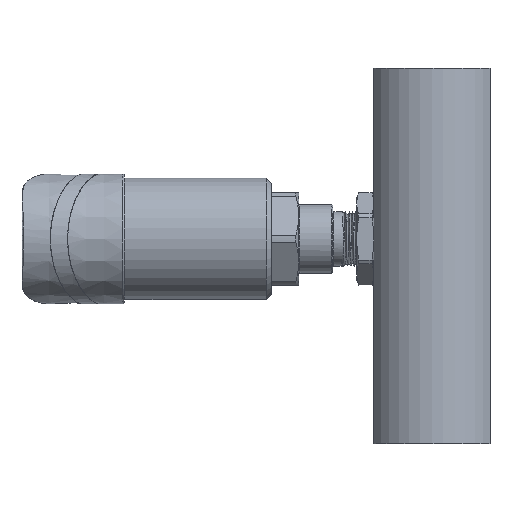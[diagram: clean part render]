
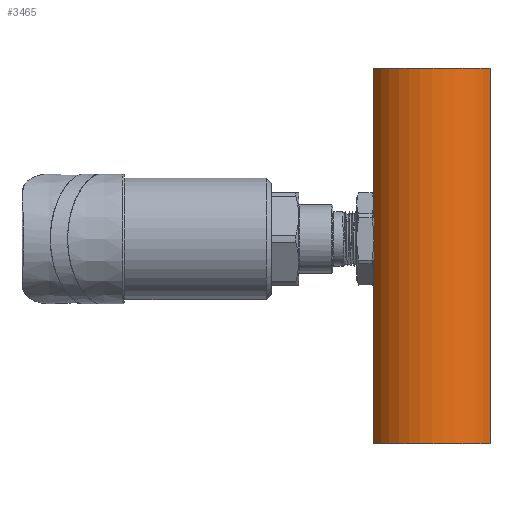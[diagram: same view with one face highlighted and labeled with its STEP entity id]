
A CAD part, left-side view. The second image highlights one B-rep face of the part: STEP entity #3465.
In plain terms, the highlighted cylindrical face has radius 20 mm (diameter 40 mm), a partial arc.
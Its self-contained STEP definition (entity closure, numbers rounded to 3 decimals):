
#2415=CYLINDRICAL_SURFACE('',#15227,20.);
#2764=CIRCLE('',#15225,20.);
#2765=CIRCLE('',#15226,20.);
#3465=ADVANCED_FACE('',(#4387),#2415,.T.);
#4387=FACE_OUTER_BOUND('',#5211,.T.);
#5211=EDGE_LOOP('',(#9407,#9408,#9409,#9410));
#9407=ORIENTED_EDGE('',*,*,#12492,.F.);
#9408=ORIENTED_EDGE('',*,*,#12493,.T.);
#9409=ORIENTED_EDGE('',*,*,#12494,.F.);
#9410=ORIENTED_EDGE('',*,*,#12495,.T.);
#10719=VERTEX_POINT('',#31497);
#10720=VERTEX_POINT('',#31498);
#10721=VERTEX_POINT('',#31500);
#10722=VERTEX_POINT('',#31502);
#12492=EDGE_CURVE('',#10719,#10720,#13383,.T.);
#12493=EDGE_CURVE('',#10719,#10721,#2764,.T.);
#12494=EDGE_CURVE('',#10722,#10721,#13384,.T.);
#12495=EDGE_CURVE('',#10722,#10720,#2765,.T.);
#13383=LINE('',#31496,#14344);
#13384=LINE('',#31501,#14345);
#14344=VECTOR('',#17943,1.);
#14345=VECTOR('',#17946,1.);
#15225=AXIS2_PLACEMENT_3D('',#31499,#17944,#17945);
#15226=AXIS2_PLACEMENT_3D('',#31503,#17947,#17948);
#15227=AXIS2_PLACEMENT_3D('',#31504,#17949,#17950);
#17943=DIRECTION('',(0.,0.,-1.));
#17944=DIRECTION('',(0.,0.,-1.));
#17945=DIRECTION('',(-1.,0.,0.));
#17946=DIRECTION('',(0.,0.,1.));
#17947=DIRECTION('',(0.,0.,1.));
#17948=DIRECTION('',(-1.,0.,0.));
#17949=DIRECTION('',(0.,0.,1.));
#17950=DIRECTION('',(1.,0.,0.));
#31496=CARTESIAN_POINT('',(-10.551,-18.5,77.5));
#31497=CARTESIAN_POINT('',(-10.551,-18.5,193.));
#31498=CARTESIAN_POINT('',(-10.551,-18.5,83.));
#31499=CARTESIAN_POINT('',(-0.016,-1.5,193.));
#31500=CARTESIAN_POINT('',(-10.551,15.5,193.));
#31501=CARTESIAN_POINT('',(-10.551,15.5,77.5));
#31502=CARTESIAN_POINT('',(-10.551,15.5,83.));
#31503=CARTESIAN_POINT('',(-0.016,-1.5,83.));
#31504=CARTESIAN_POINT('',(-0.016,-1.5,77.5));
